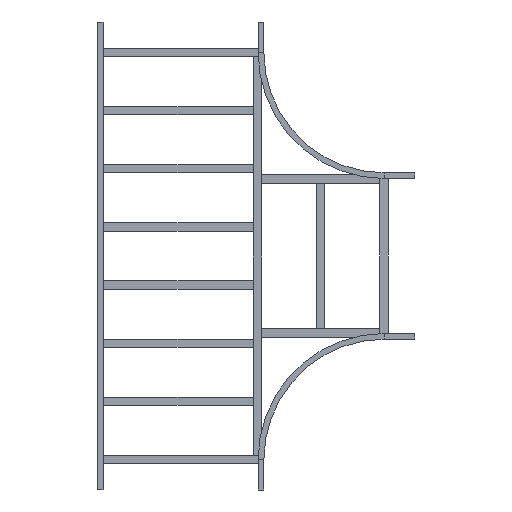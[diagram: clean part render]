
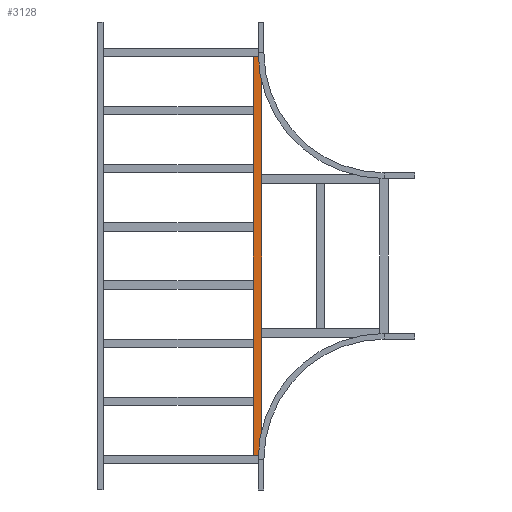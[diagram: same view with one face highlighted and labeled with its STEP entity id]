
A CAD part, front view. The second image highlights one B-rep face of the part: STEP entity #3128.
In plain terms, the highlighted planar face has unit normal (0, -1, 0).
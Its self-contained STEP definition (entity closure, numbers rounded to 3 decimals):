
#140 = EDGE_CURVE ( 'NONE', #2923, #368, #2489, .T. ) ;
#368 = VERTEX_POINT ( 'NONE', #1365 ) ;
#399 = FACE_OUTER_BOUND ( 'NONE', #3599, .T. ) ;
#496 = ORIENTED_EDGE ( 'NONE', *, *, #1419, .F. ) ;
#502 = CARTESIAN_POINT ( 'NONE',  ( 979.75, 0., 20.25 ) ) ;
#571 = DIRECTION ( 'NONE',  ( -1., 0., 0. ) ) ;
#655 = VECTOR ( 'NONE', #2625, 1000. ) ;
#659 = ORIENTED_EDGE ( 'NONE', *, *, #140, .F. ) ;
#816 = VERTEX_POINT ( 'NONE', #2994 ) ;
#1072 = DIRECTION ( 'NONE',  ( -1., 0., 0. ) ) ;
#1330 = DIRECTION ( 'NONE',  ( 0., 0., -1. ) ) ;
#1365 = CARTESIAN_POINT ( 'NONE',  ( 979.75, 0., -20.25 ) ) ;
#1419 = EDGE_CURVE ( 'NONE', #368, #2226, #1970, .T. ) ;
#1471 = AXIS2_PLACEMENT_3D ( 'NONE', #2963, #1513, #2917 ) ;
#1510 = ORIENTED_EDGE ( 'NONE', *, *, #2043, .T. ) ;
#1513 = DIRECTION ( 'NONE',  ( 0., 1., 0. ) ) ;
#1835 = PLANE ( 'NONE',  #1471 ) ;
#1848 = CARTESIAN_POINT ( 'NONE',  ( -979.75, 0., 20.25 ) ) ;
#1970 = LINE ( 'NONE', #3102, #3134 ) ;
#2038 = LINE ( 'NONE', #1848, #655 ) ;
#2043 = EDGE_CURVE ( 'NONE', #2923, #816, #2796, .T. ) ;
#2226 = VERTEX_POINT ( 'NONE', #2656 ) ;
#2296 = ORIENTED_EDGE ( 'NONE', *, *, #3526, .T. ) ;
#2489 = LINE ( 'NONE', #2506, #3351 ) ;
#2506 = CARTESIAN_POINT ( 'NONE',  ( 979.75, 0., 20.25 ) ) ;
#2625 = DIRECTION ( 'NONE',  ( 0., 0., -1. ) ) ;
#2656 = CARTESIAN_POINT ( 'NONE',  ( -979.75, 0., -20.25 ) ) ;
#2796 = LINE ( 'NONE', #502, #3257 ) ;
#2917 = DIRECTION ( 'NONE',  ( 0., 0., 1. ) ) ;
#2923 = VERTEX_POINT ( 'NONE', #3100 ) ;
#2963 = CARTESIAN_POINT ( 'NONE',  ( 979.75, 0., 20.25 ) ) ;
#2994 = CARTESIAN_POINT ( 'NONE',  ( -979.75, 0., 20.25 ) ) ;
#3100 = CARTESIAN_POINT ( 'NONE',  ( 979.75, 0., 20.25 ) ) ;
#3102 = CARTESIAN_POINT ( 'NONE',  ( 979.75, 0., -20.25 ) ) ;
#3128 = ADVANCED_FACE ( 'NONE', ( #399 ), #1835, .F. ) ;
#3134 = VECTOR ( 'NONE', #571, 1000. ) ;
#3257 = VECTOR ( 'NONE', #1072, 1000. ) ;
#3351 = VECTOR ( 'NONE', #1330, 1000. ) ;
#3526 = EDGE_CURVE ( 'NONE', #816, #2226, #2038, .T. ) ;
#3599 = EDGE_LOOP ( 'NONE', ( #2296, #496, #659, #1510 ) ) ;
